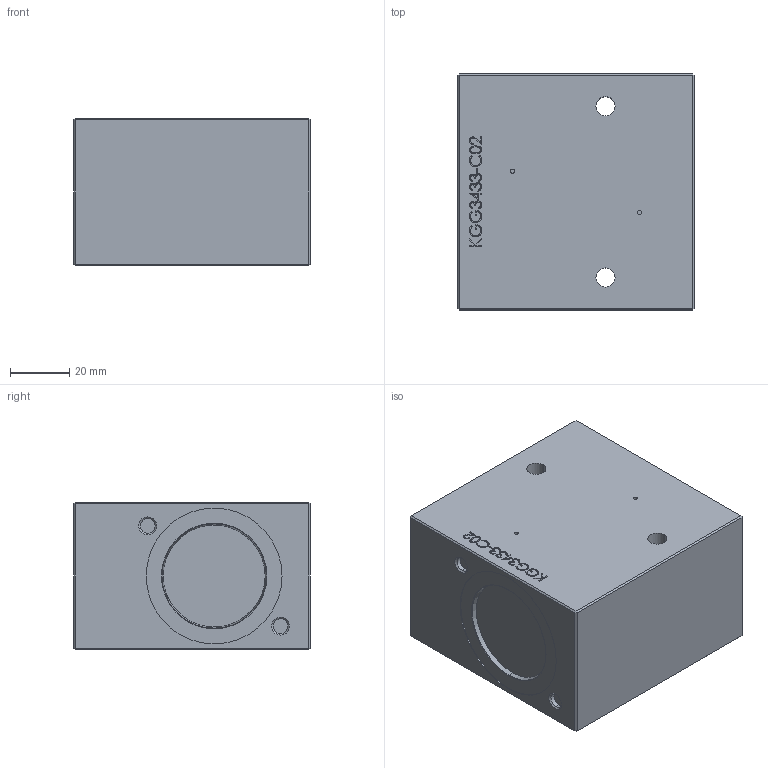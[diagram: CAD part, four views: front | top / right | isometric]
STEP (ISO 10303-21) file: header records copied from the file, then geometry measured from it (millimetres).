
FILE_DESCRIPTION (( 'STEP AP214' ), '1' );
FILE_NAME ('KGG3433-C02.STEP', '2016-11-25T10:42:19', ( '' ), ( '' ), 'SwSTEP 2.0', 'SolidWorks 2014', '' );
FILE_SCHEMA (( 'AUTOMOTIVE_DESIGN' ));
Length unit declared in the file: millimetre
Products named in the file (2): KGG3433-C02
Bounding box: 80 x 80 x 50 mm (x, y, z)
Volume: 311272.6 mm3; surface area: 31307 mm2
Topology: 1 solids, 1 shells, 236 faces, 597 edges, 388 vertices
Faces by surface type: plane 116, bspline 90, cylinder 22, cone 6, torus 2
Entity records: 12402 total; most frequent: CARTESIAN_POINT 7153, ORIENTED_EDGE 1194, DIRECTION 769, EDGE_CURVE 597, VERTEX_POINT 388, LINE 361, VECTOR 361, EDGE_LOOP 265
